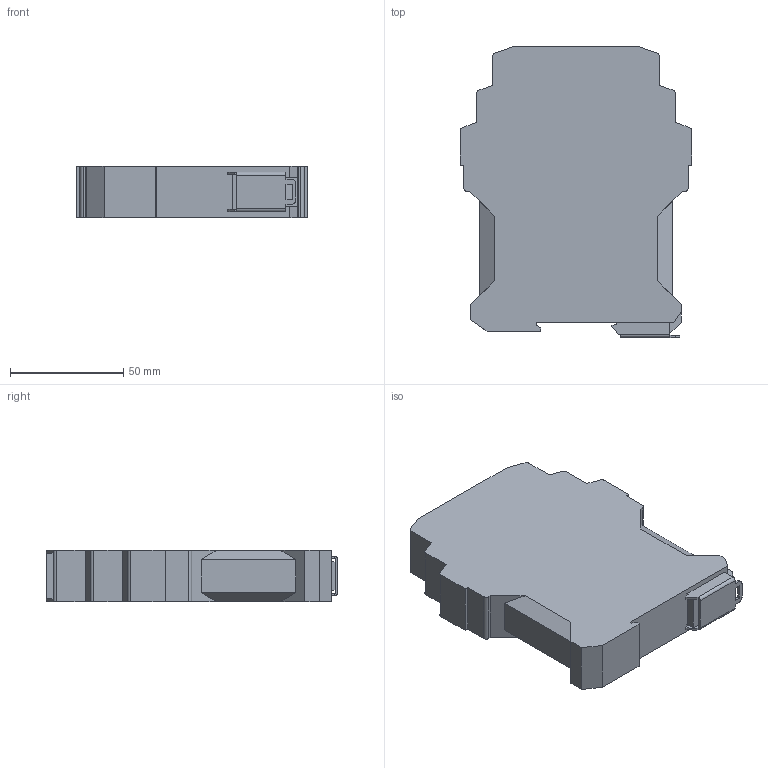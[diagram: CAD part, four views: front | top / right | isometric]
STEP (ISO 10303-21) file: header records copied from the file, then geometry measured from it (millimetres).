
FILE_DESCRIPTION (( 'STEP AP214' ), '1' );
FILE_NAME ('ZF_STEP_CS_fB_mM-X.step', '2021-02-15T12:59:12', ( '' ), ( '' ), 'SwSTEP 2.0', 'SolidWorks 2014', '' );
FILE_SCHEMA (( 'AUTOMOTIVE_DESIGN' ));
Length unit declared in the file: millimetre
Products named in the file (3): DIN; CS_forma_B_morsetti_M; ZF_STEP_CS_fB_mM-X
Assembly tree (2 placements, depth 2):
  ZF_STEP_CS_fB_mM-X
    CS_forma_B_morsetti_M
    DIN
Bounding box: 102 x 128.5 x 22.6 mm (x, y, z)
Volume: 244267.9 mm3; surface area: 33358.6 mm2
Topology: 2 solids, 2 shells, 106 faces, 297 edges, 196 vertices
Faces by surface type: plane 93, cylinder 13
Entity records: 3506 total; most frequent: CARTESIAN_POINT 604, ORIENTED_EDGE 594, DIRECTION 545, EDGE_CURVE 297, VECTOR 271, LINE 271, VERTEX_POINT 196, AXIS2_PLACEMENT_3D 137
